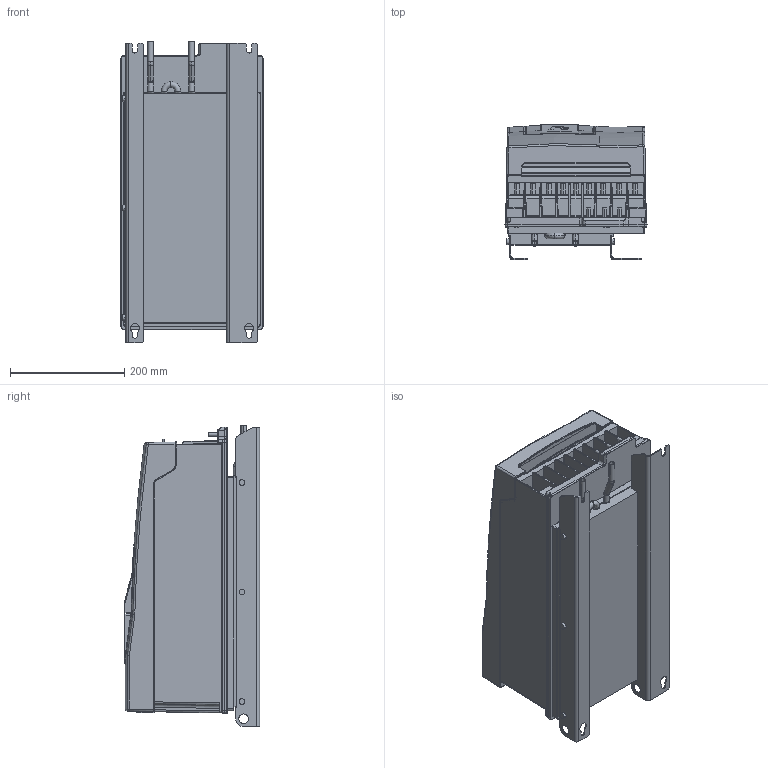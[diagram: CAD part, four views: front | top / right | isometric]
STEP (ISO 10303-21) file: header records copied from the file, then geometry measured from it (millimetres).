
FILE_DESCRIPTION (( 'STEP AP214' ), '1' );
FILE_NAME ('F6-6TW0-K001.STEP', '2020-12-09T13:05:17', ( '' ), ( '' ), 'SwSTEP 2.0', 'SolidWorks 2019', '' );
FILE_SCHEMA (( 'AUTOMOTIVE_DESIGN' ));
Length unit declared in the file: millimetre
Products named in the file (11): 10058413_000; 10060787_000; 10059765_000; 10061956_000; 10035735_000_Kundenmodell; 10061794_000; F6-6TW0-K001; 10027052_000_Geh„usebaugruppe F6-6 (Kundenmodell); 10046074_000_Leistungsteil F6-6 TW0 (Kundenmodell); 10059764_000_Blindabdeckung (Kundenmodell); 10061793_000_Deckelbaugruppe F6-6 (Kundenmodell)
Assembly tree (10 placements, depth 4):
  F6-6TW0-K001
    10046074_000_Leistungsteil F6-6 TW0 (Kundenmodell)
      10061956_000
    10027052_000_Geh„usebaugruppe F6-6 (Kundenmodell)
      10061793_000_Deckelbaugruppe F6-6 (Kundenmodell)
        10061794_000
      10060787_000
    10035735_000_Kundenmodell
      10059764_000_Blindabdeckung (Kundenmodell)
        10059765_000
      10058413_000
Bounding box: 249 x 236.9 x 528.7 mm (x, y, z)
Volume: 20528043.4 mm3; surface area: 1349303.3 mm2
Topology: 12 solids, 23 shells, 2940 faces, 7533 edges, 4566 vertices
Faces by surface type: cylinder 1018, plane 1016, bspline 574, torus 150, sphere 111, cone 71
Entity records: 101612 total; most frequent: CARTESIAN_POINT 35512, ORIENTED_EDGE 14770, DIRECTION 12629, EDGE_CURVE 7385, VERTEX_POINT 4564, AXIS2_PLACEMENT_3D 4547, VECTOR 3535, LINE 3535
